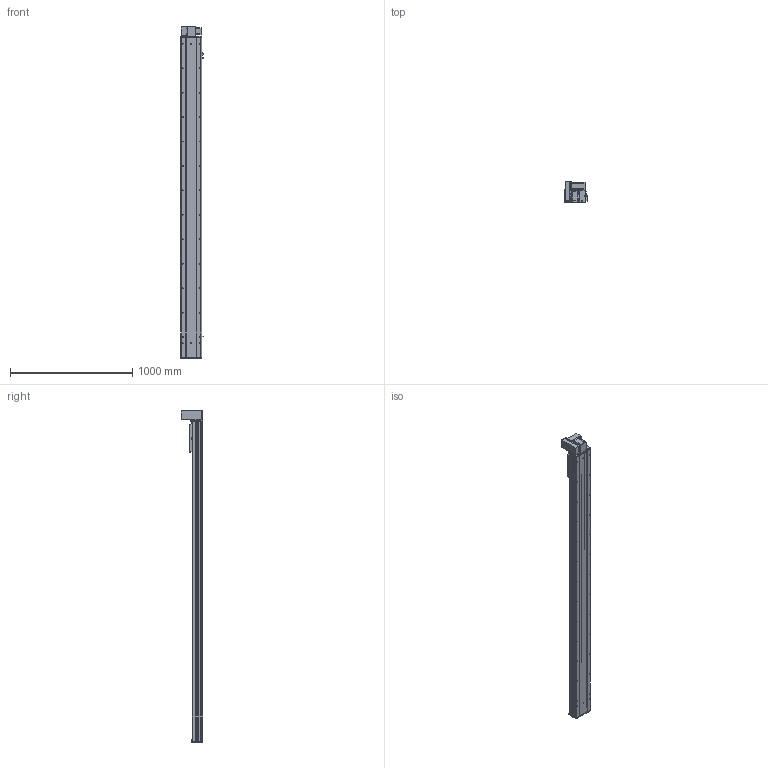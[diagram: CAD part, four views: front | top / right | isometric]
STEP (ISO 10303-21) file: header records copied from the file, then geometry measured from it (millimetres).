
FILE_DESCRIPTION (( 'STEP AP203' ), '1' );
FILE_NAME ('Y170CB-D105-S2300-UL-P400W.STEP', '2020-02-20T02:57:50', ( '微软用户' ), ( '微软中国' ), 'SwSTEP 2.0', 'SolidWorks 2017', '' );
FILE_SCHEMA (( 'CONFIG_CONTROL_DESIGN' ));
Length unit declared in the file: millimetre
Products named in the file (18): Y170CB-D105-S2300-UL-P400W; 0C--雄赽釱俋欶-170; 0B-萇儂楊擘啣; 70CB-詩湍--; san松下电机400不带刹车----; Y100-135俋离換覜ん--; 70CB-掛极-; Y170CB-陔俋离換覜結え---; --70CB --喘謫眊楊擘啣-; 70B喘謫眊----; 70CB-耜裔啣-; Y1埴倛裔; 70C--詩湍揤踡え-; 17B-耜蚾蟀諉啣----; 70CB--耜裔; 00B-俋欶BM--163; 70C-雄赽釱-奻-; B-源倛裔啣
Assembly tree (21 placements, depth 2):
  Y170CB-D105-S2300-UL-P400W
    B-源倛裔啣
    0B-萇儂楊擘啣
    san松下电机400不带刹车----
    70CB-掛极-
    --70CB --喘謫眊楊擘啣-
    70CB-耜裔啣-  x2
    70C--詩湍揤踡え-  x2
    70CB--耜裔
    70C-雄赽釱-奻-
    0C--雄赽釱俋欶-170
    70CB-詩湍--
    Y100-135俋离換覜ん--  x3
    Y170CB-陔俋离換覜結え---
    70B喘謫眊----
    Y1埴倛裔
    17B-耜蚾蟀諉啣----
    00B-俋欶BM--163
Bounding box: 183.5 x 174 x 2716 mm (x, y, z)
Volume: 11657453.8 mm3; surface area: 4207712.9 mm2
Topology: 21 solids, 21 shells, 1063 faces, 2861 edges, 1898 vertices
Faces by surface type: cylinder 577, plane 462, cone 24
Entity records: 34080 total; most frequent: CARTESIAN_POINT 6276, DIRECTION 5546, ORIENTED_EDGE 5204, EDGE_CURVE 2602, AXIS2_PLACEMENT_3D 2048, VERTEX_POINT 1728, LINE 1450, VECTOR 1450
